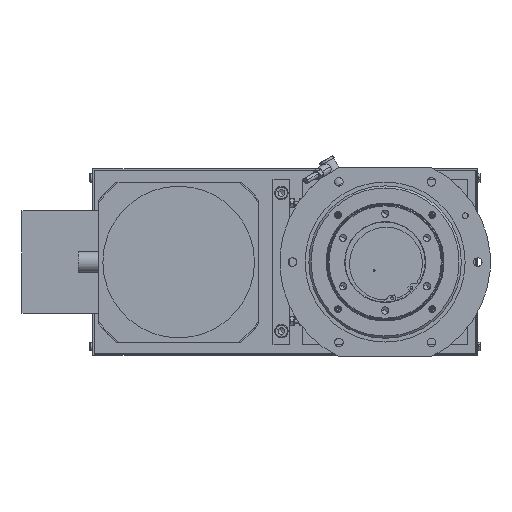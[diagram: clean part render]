
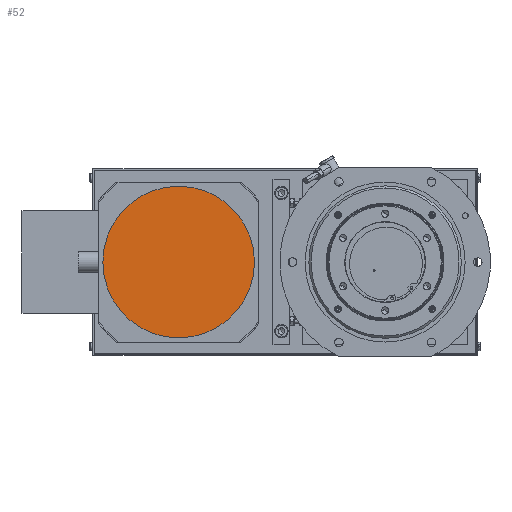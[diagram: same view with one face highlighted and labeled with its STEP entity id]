
A CAD part, front view. The second image highlights one B-rep face of the part: STEP entity #52.
In plain terms, the highlighted planar face has unit normal (0, -1, 0).
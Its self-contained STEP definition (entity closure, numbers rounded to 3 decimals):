
#44 = DIRECTION ( 'NONE',  ( 1., 0., 0. ) ) ;
#52 = ADVANCED_FACE ( 'NONE', ( #49994 ), #13345, .F. ) ;
#2645 = EDGE_CURVE ( 'NONE', #39238, #18711, #29300, .T. ) ;
#13345 = PLANE ( 'NONE',  #38369 ) ;
#18711 = VERTEX_POINT ( 'NONE', #58155 ) ;
#22006 = CARTESIAN_POINT ( 'NONE',  ( -94.891, -130.221, 229.409 ) ) ;
#22607 = EDGE_CURVE ( 'NONE', #18711, #39238, #46795, .T. ) ;
#29300 = CIRCLE ( 'NONE', #55522, 90. ) ;
#31153 = DIRECTION ( 'NONE',  ( 0., 1., 0. ) ) ;
#31427 = CARTESIAN_POINT ( 'NONE',  ( -99.891, -130.221, 134.409 ) ) ;
#32158 = EDGE_LOOP ( 'NONE', ( #41034, #50474 ) ) ;
#38369 = AXIS2_PLACEMENT_3D ( 'NONE', #22006, #31153, #44 ) ;
#39238 = VERTEX_POINT ( 'NONE', #31427 ) ;
#41034 = ORIENTED_EDGE ( 'NONE', *, *, #22607, .T. ) ;
#45998 = CARTESIAN_POINT ( 'NONE',  ( -189.891, -130.221, 134.409 ) ) ;
#46795 = CIRCLE ( 'NONE', #58683, 90. ) ;
#49994 = FACE_OUTER_BOUND ( 'NONE', #32158, .T. ) ;
#50474 = ORIENTED_EDGE ( 'NONE', *, *, #2645, .T. ) ;
#51314 = DIRECTION ( 'NONE',  ( 0., -1., 0. ) ) ;
#55080 = CARTESIAN_POINT ( 'NONE',  ( -189.891, -130.221, 134.409 ) ) ;
#55467 = DIRECTION ( 'NONE',  ( 0., -1., 0. ) ) ;
#55522 = AXIS2_PLACEMENT_3D ( 'NONE', #55080, #55467, #55850 ) ;
#55850 = DIRECTION ( 'NONE',  ( -1., 0., 0. ) ) ;
#56242 = DIRECTION ( 'NONE',  ( -1., 0., 0. ) ) ;
#58155 = CARTESIAN_POINT ( 'NONE',  ( -279.891, -130.221, 134.409 ) ) ;
#58683 = AXIS2_PLACEMENT_3D ( 'NONE', #45998, #51314, #56242 ) ;
